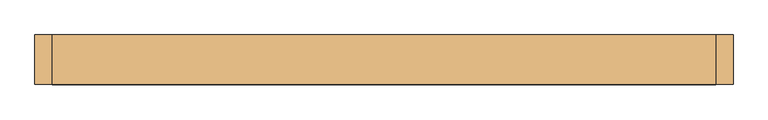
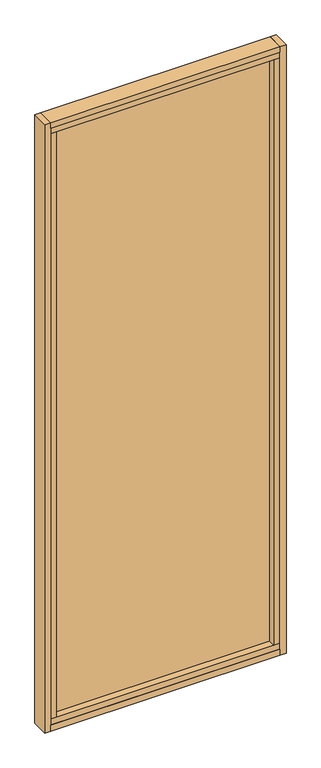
"""IFC4 building model written with IfcOpenShell, lengths in millimetres: door geometry, Mobiliário_Mobiliário de Escritório_Painel de Vidro Simples - AUT E AUL (Completo)_Marelli : AUT - Temperado."""

from ifc_helpers import new_model, si_unit, frame, origin, origin_with_axes, place, context, project, spatial, polyline, outline, extrude, source, transform, mapped, element, save


def door_1979646b(model_context):
    return source(origin(), model_context, "Body", "SweptSolid", [
        extrude(outline(polyline([(570.0, 42.5), (570.0, -42.5), (-570.0, -42.5), (-570.0, 42.5), (570.0, 42.5)])), origin_with_axes(), (0.0, 0.0, 1.0), 30.0),
        extrude(outline(polyline([(570.0, 39.5), (570.0, -39.5), (-570.0, -39.5), (-570.0, 39.5), (570.0, 39.5)])), frame((0.0, 0.0, 30.0), z_axis=(0.0, 0.0, 1.0), x_axis=(1.0, 0.0, 0.0)), (0.0, 0.0, 1.0), 30.0),
        extrude(outline(polyline([(570.0, 42.5), (570.0, -42.5), (-570.0, -42.5), (-570.0, 42.5), (570.0, 42.5)])), frame((0.0, 0.0, 3170.0), z_axis=(0.0, 0.0, 1.0), x_axis=(1.0, 0.0, 0.0)), (0.0, 0.0, 1.0), 30.0),
        extrude(outline(polyline([(570.0, 39.5), (570.0, -39.5), (-570.0, -39.5), (-570.0, 39.5), (570.0, 39.5)])), frame((0.0, 0.0, 3140.0), z_axis=(0.0, 0.0, 1.0), x_axis=(1.0, 0.0, 0.0)), (0.0, 0.0, 1.0), 30.0),
        extrude(outline(polyline([(-600.0, -42.5), (-600.0, 42.5), (-570.0, 42.5), (-570.0, -42.5), (-600.0, -42.5)])), origin_with_axes(), (0.0, 0.0, 1.0), 3200.0),
        extrude(outline(polyline([(600.0, -42.5), (570.0, -42.5), (570.0, 42.5), (600.0, 42.5), (600.0, -42.5)])), origin_with_axes(), (0.0, 0.0, 1.0), 3200.0),
        extrude(outline(polyline([(-540.0, 39.5), (-540.0, -39.5), (-570.0, -39.5), (-570.0, 39.5), (-540.0, 39.5)])), frame((0.0, 0.0, 60.0), z_axis=(0.0, 0.0, 1.0), x_axis=(1.0, 0.0, 0.0)), (0.0, 0.0, 1.0), 3080.0),
        extrude(outline(polyline([(540.0, 39.5), (570.0, 39.5), (570.0, -39.5), (540.0, -39.5), (540.0, 39.5)])), frame((0.0, 0.0, 60.0), z_axis=(0.0, 0.0, 1.0), x_axis=(1.0, 0.0, 0.0)), (0.0, 0.0, 1.0), 3080.0),
        extrude(outline(polyline([(540.0, 3.0), (540.0, -3.0), (-540.0, -3.0), (-540.0, 3.0), (540.0, 3.0)])), frame((0.0, 0.0, 60.0), z_axis=(0.0, 0.0, 1.0), x_axis=(1.0, 0.0, 0.0)), (0.0, 0.0, 1.0), 3080.0),
    ])


if __name__ == "__main__":
    model = new_model("IFC4")
    model_context = context("Model", 3, world=origin())
    ifc_project = project(units=[si_unit("LENGTHUNIT", "METRE", prefix="MILLI")], contexts=[model_context])
    site = spatial("IfcSite", under=ifc_project)
    building = spatial("IfcBuilding", under=site)
    placement = place(None, origin())
    door_shape = door_1979646b(model_context)
    element("IfcDoor", 1, ObjectType="Mobiliário_Mobiliário de Escritório_Painel de Vidro Simples - AUT E AUL (Completo)_Marelli : AUT - Temperado", at=placement, inside=building, context=model_context, shape_type="MappedRepresentation", body=[
        mapped(door_shape, transform((0.0, 0.0, 0.0), x_axis=(1.0, 0.0, 0.0), y_axis=(0.0, 1.0, 0.0), z_axis=(0.0, 0.0, 1.0))),
    ])
    save(model, "model.ifc")
